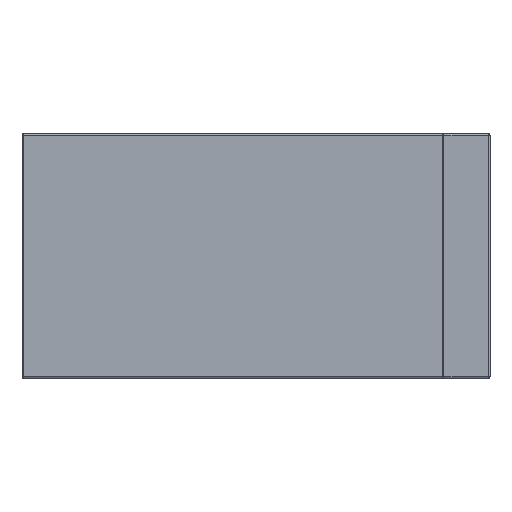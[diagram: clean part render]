
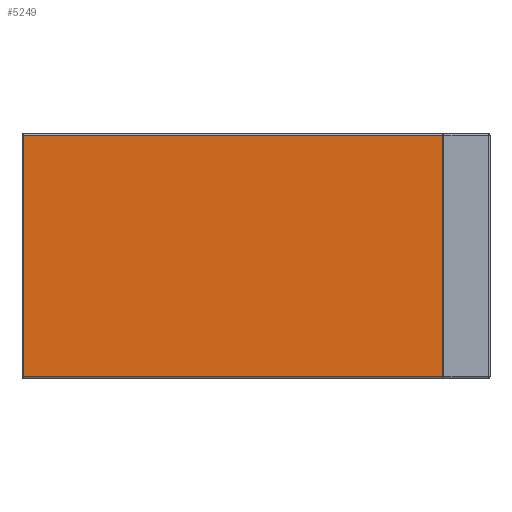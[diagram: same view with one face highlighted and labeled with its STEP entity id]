
A CAD part, left-side view. The second image highlights one B-rep face of the part: STEP entity #5249.
In plain terms, the highlighted planar face has unit normal (-1, 0, 0).
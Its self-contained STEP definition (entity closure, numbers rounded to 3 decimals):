
#51 = EDGE_CURVE ( 'NONE', #11951, #1614, #4290, .T. ) ;
#219 = EDGE_CURVE ( 'NONE', #1614, #12098, #10356, .T. ) ;
#348 = DIRECTION ( 'NONE',  ( 0., 0., -1. ) ) ;
#380 = DIRECTION ( 'NONE',  ( 1., 0., 0. ) ) ;
#494 = EDGE_CURVE ( 'NONE', #12098, #12047, #8190, .T. ) ;
#684 = PLANE ( 'NONE',  #1007 ) ;
#734 = EDGE_CURVE ( 'NONE', #12047, #11951, #8667, .T. ) ;
#1007 = AXIS2_PLACEMENT_3D ( 'NONE', #12629, #380, #348 ) ;
#1614 = VERTEX_POINT ( 'NONE', #11441 ) ;
#2369 = VECTOR ( 'NONE', #7744, 1000. ) ;
#3004 = ORIENTED_EDGE ( 'NONE', *, *, #51, .T. ) ;
#3349 = VECTOR ( 'NONE', #4878, 1000. ) ;
#3915 = FACE_OUTER_BOUND ( 'NONE', #11022, .T. ) ;
#3995 = CARTESIAN_POINT ( 'NONE',  ( 0., 72.8, 37.9 ) ) ;
#4096 = ORIENTED_EDGE ( 'NONE', *, *, #219, .T. ) ;
#4290 = LINE ( 'NONE', #8628, #11891 ) ;
#4417 = ORIENTED_EDGE ( 'NONE', *, *, #494, .T. ) ;
#4521 = CARTESIAN_POINT ( 'NONE',  ( 0., 72.8, 38.1 ) ) ;
#4877 = ORIENTED_EDGE ( 'NONE', *, *, #734, .T. ) ;
#4878 = DIRECTION ( 'NONE',  ( 0., 0., -1. ) ) ;
#5249 = ADVANCED_FACE ( 'NONE', ( #3915 ), #684, .F. ) ;
#6150 = CARTESIAN_POINT ( 'NONE',  ( 0., 73., 37.9 ) ) ;
#6162 = DIRECTION ( 'NONE',  ( 0., 1., 0. ) ) ;
#6168 = CARTESIAN_POINT ( 'NONE',  ( 0., 7.4, 37.9 ) ) ;
#6951 = CARTESIAN_POINT ( 'NONE',  ( 0., 72.8, 0.2 ) ) ;
#7744 = DIRECTION ( 'NONE',  ( 0., 0., 1. ) ) ;
#7994 = CARTESIAN_POINT ( 'NONE',  ( 0., 7.4, 38.1 ) ) ;
#8190 = LINE ( 'NONE', #6150, #10509 ) ;
#8628 = CARTESIAN_POINT ( 'NONE',  ( 0., 7.2, 0.2 ) ) ;
#8667 = LINE ( 'NONE', #4521, #3349 ) ;
#8798 = DIRECTION ( 'NONE',  ( 0., -1., 0. ) ) ;
#10356 = LINE ( 'NONE', #7994, #2369 ) ;
#10509 = VECTOR ( 'NONE', #6162, 1000. ) ;
#11022 = EDGE_LOOP ( 'NONE', ( #3004, #4096, #4417, #4877 ) ) ;
#11441 = CARTESIAN_POINT ( 'NONE',  ( 0., 7.4, 0.2 ) ) ;
#11891 = VECTOR ( 'NONE', #8798, 1000. ) ;
#11951 = VERTEX_POINT ( 'NONE', #6951 ) ;
#12047 = VERTEX_POINT ( 'NONE', #3995 ) ;
#12098 = VERTEX_POINT ( 'NONE', #6168 ) ;
#12629 = CARTESIAN_POINT ( 'NONE',  ( 0., 7.2, 38.1 ) ) ;
